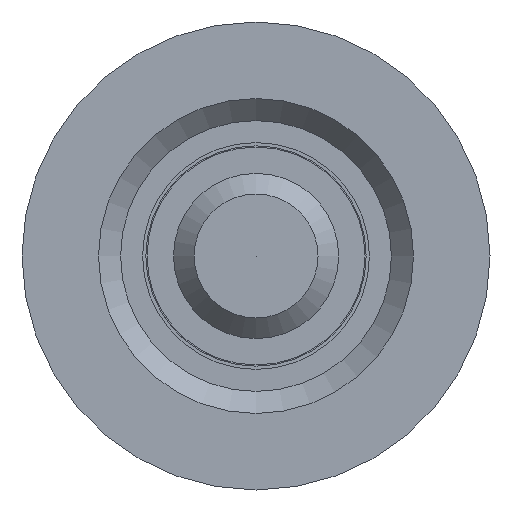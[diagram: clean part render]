
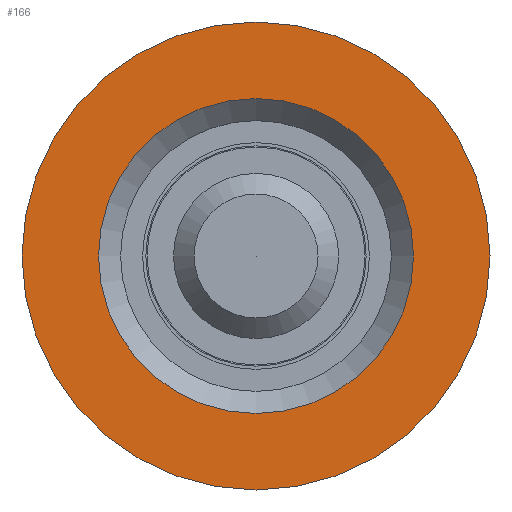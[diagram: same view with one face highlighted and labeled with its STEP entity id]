
A CAD part, left-side view. The second image highlights one B-rep face of the part: STEP entity #166.
In plain terms, the highlighted planar face has unit normal (-1, 0, 0).
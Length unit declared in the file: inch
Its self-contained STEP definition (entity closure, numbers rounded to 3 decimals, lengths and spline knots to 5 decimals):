
#124=CARTESIAN_POINT('',(-2.5939,0.35693,0.0));
#125=VERTEX_POINT('',#124);
#126=CARTESIAN_POINT('',(-2.5939,-0.00057,0.0));
#127=DIRECTION('',(1.0,0.0,0.0));
#128=DIRECTION('',(0.0,1.0,0.0));
#129=AXIS2_PLACEMENT_3D('',#126,#127,#128);
#130=CIRCLE('',#129,0.3575);
#131=EDGE_CURVE('',#125,#125,#130,.T.);
#147=CARTESIAN_POINT('',(-2.5939,0.44381,0.0));
#148=DIRECTION('',(-1.0,0.0,0.0));
#149=DIRECTION('',(0.0,0.0,1.0));
#150=AXIS2_PLACEMENT_3D('',#147,#148,#149);
#151=PLANE('',#150);
#152=CARTESIAN_POINT('',(-2.5939,0.53068,0.0));
#153=VERTEX_POINT('',#152);
#154=CARTESIAN_POINT('',(-2.5939,-0.00057,0.0));
#155=DIRECTION('',(1.0,0.0,0.0));
#156=DIRECTION('',(0.0,1.0,0.0));
#157=AXIS2_PLACEMENT_3D('',#154,#155,#156);
#158=CIRCLE('',#157,0.53125);
#159=EDGE_CURVE('',#153,#153,#158,.T.);
#160=ORIENTED_EDGE('',*,*,#159,.F.);
#161=EDGE_LOOP('',(#160));
#162=FACE_OUTER_BOUND('',#161,.T.);
#163=ORIENTED_EDGE('',*,*,#131,.T.);
#164=EDGE_LOOP('',(#163));
#165=FACE_BOUND('',#164,.T.);
#166=ADVANCED_FACE('',(#162,#165),#151,.T.);
